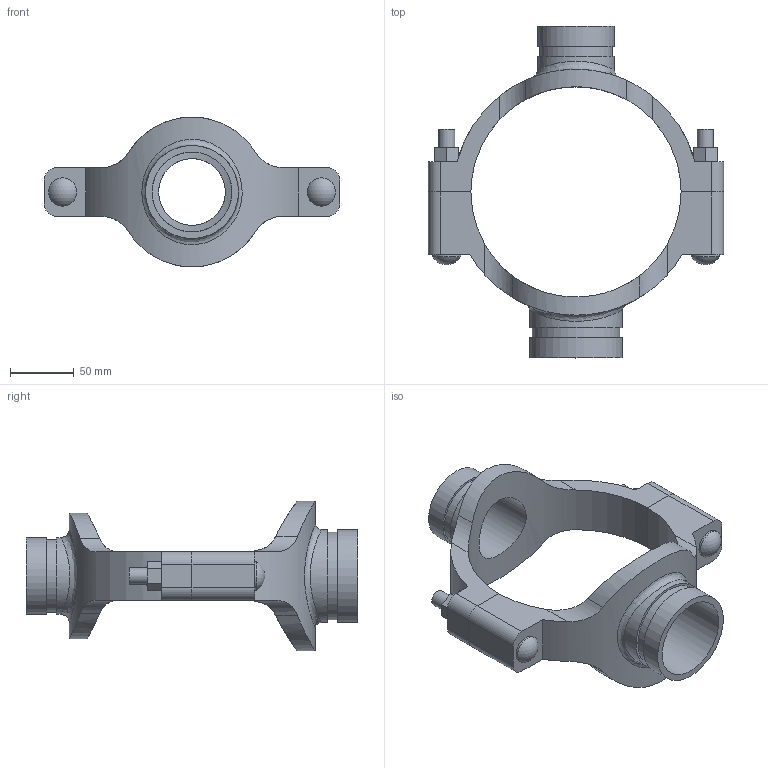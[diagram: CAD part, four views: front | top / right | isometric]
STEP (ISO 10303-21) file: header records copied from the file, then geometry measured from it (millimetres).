
FILE_DESCRIPTION(/* description */ ('VIC MECH-T BRANCH OUTLET CROSS STYLE 920N (GRVD)','CAx-IF Rec.Pracs.---Representation and Presentation of Product Manufacturing Information (PMI)---4.0---2014-10-13'),/* implementation_level */ '2;1');
FILE_NAME(/* name */ 'C:\Users\Vjadhav\AppData\Roaming\Autodesk\ApplicationPlugins\Back Up\Victaulic_IPS_Mechanical-Cross Outlet_Style 920N (OGS)\Victaulic_IPS_Mechanical-Cross Outlet_06.0 (165.1)x02.0x02.5 (150x50x65).stp',/* time_stamp */ '2020-08-06T19:45:22+05:00',/* author */ ('Vjadhav'),/* organization */ ('Victaulic'),/* preprocessor_version */ 'ST-DEVELOPER v17.2',/* originating_system */ 'Autodesk Inventor 2019',/* authorisation */ '');
FILE_SCHEMA (('AP242_MANAGED_MODEL_BASED_3D_ENGINEERING_MIM_LF { 1 0 10303 442 1 1 4 }'));
Length unit declared in the file: inch
Products named in the file (3): 920NG-06.0 (165.1)x02.0x02.5; 920NG-06.0 (165.1)x02.0x02.5_1; 920G-06.0 (165.1)x02.5
Assembly tree (2 placements, depth 2):
  920NG-06.0 (165.1)x02.0x02.5
    920NG-06.0 (165.1)x02.0x02.5_1
    920G-06.0 (165.1)x02.5
Bounding box: 231.9 x 260.6 x 117.6 mm (x, y, z)
Volume: 552228.4 mm3; surface area: 138196.8 mm2
Topology: 2 solids, 2 shells, 106 faces, 268 edges, 182 vertices
Faces by surface type: plane 54, cylinder 48, sphere 2, bspline 2
Full cylindrical faces by diameter (mm): 12.7 x4, 22.225 x2, 52.387 x1, 57.15 x1, 60.325 x2, 62.713 x1, 69.088 x1, 73.025 x2
Entity records: 4338 total; most frequent: CARTESIAN_POINT 1511, DIRECTION 542, ORIENTED_EDGE 536, EDGE_CURVE 268, AXIS2_PLACEMENT_3D 197, VERTEX_POINT 182, LINE 148, VECTOR 148
